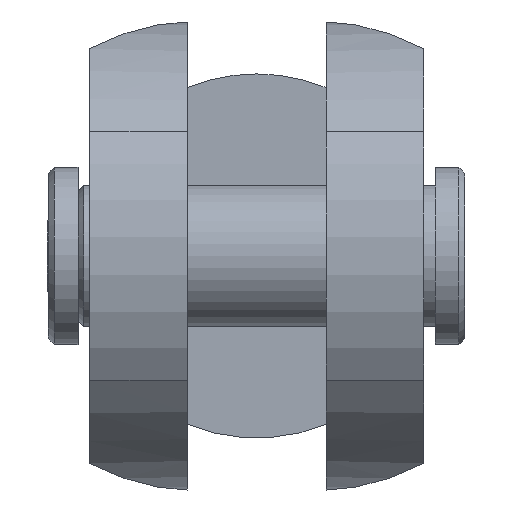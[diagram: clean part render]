
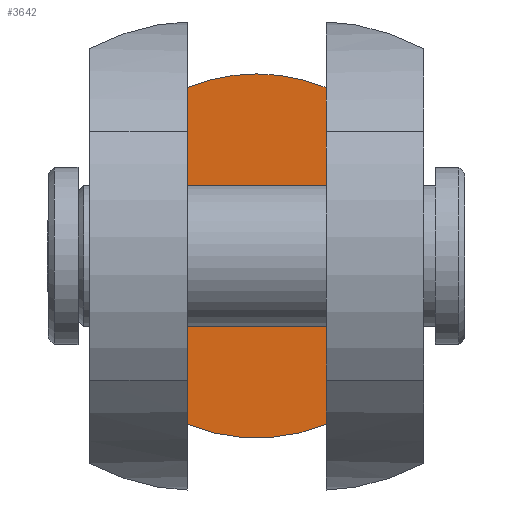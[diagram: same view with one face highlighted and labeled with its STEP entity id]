
A CAD part, left-side view. The second image highlights one B-rep face of the part: STEP entity #3642.
In plain terms, the highlighted planar face has unit normal (-1, 0, 0).
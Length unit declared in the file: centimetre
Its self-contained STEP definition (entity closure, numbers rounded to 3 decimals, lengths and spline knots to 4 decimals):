
#167=PLANE('',#3847);
#581=LINE('',#6010,#943);
#582=LINE('',#6012,#944);
#943=VECTOR('',#4581,5.7004);
#944=VECTOR('',#4584,5.7004);
#1187=FACE_OUTER_BOUND('',#1411,.T.);
#1411=EDGE_LOOP('',(#3164,#3165,#3166,#3167));
#1478=CIRCLE('',#3702,3.0829);
#1479=CIRCLE('',#3703,3.0829);
#1542=VERTEX_POINT('',#4883);
#1543=VERTEX_POINT('',#4887);
#1548=VERTEX_POINT('',#4923);
#1549=VERTEX_POINT('',#4927);
#1873=EDGE_CURVE('',#1542,#1543,#1478,.T.);
#1879=EDGE_CURVE('',#1548,#1549,#1479,.T.);
#2274=EDGE_CURVE('',#1549,#1542,#581,.T.);
#2275=EDGE_CURVE('',#1548,#1543,#582,.T.);
#3164=ORIENTED_EDGE('',*,*,#1879,.F.);
#3165=ORIENTED_EDGE('',*,*,#2275,.T.);
#3166=ORIENTED_EDGE('',*,*,#1873,.F.);
#3167=ORIENTED_EDGE('',*,*,#2274,.F.);
#3642=ADVANCED_FACE('',(#1187),#167,.F.);
#3702=AXIS2_PLACEMENT_3D('',#4888,#3957,#3958);
#3703=AXIS2_PLACEMENT_3D('',#4928,#3959,#3960);
#3847=AXIS2_PLACEMENT_3D('',#6011,#4582,#4583);
#3957=DIRECTION('center_axis',(1.,0.,0.));
#3958=DIRECTION('ref_axis',(0.,0.,
1.));
#3959=DIRECTION('center_axis',(1.,0.,0.));
#3960=DIRECTION('ref_axis',(0.,0.,
1.));
#4581=DIRECTION('',(0.,0.,-1.));
#4582=DIRECTION('center_axis',(1.,0.,0.));
#4583=DIRECTION('ref_axis',(0.,-1.,0.));
#4584=DIRECTION('',(0.,0.,-1.));
#4883=CARTESIAN_POINT('',(5.4,-1.175,-2.8502));
#4887=CARTESIAN_POINT('',(5.4,1.175,-2.8502));
#4888=CARTESIAN_POINT('Origin',(5.4,0.,0.));
#4923=CARTESIAN_POINT('',(5.4,1.175,2.8502));
#4927=CARTESIAN_POINT('',(5.4,-1.175,2.8502));
#4928=CARTESIAN_POINT('Origin',(5.4,0.,0.));
#6010=CARTESIAN_POINT('',(5.4,-1.175,0.));
#6011=CARTESIAN_POINT('Origin',(5.4,1.175,0.));
#6012=CARTESIAN_POINT('',(5.4,1.175,0.));
